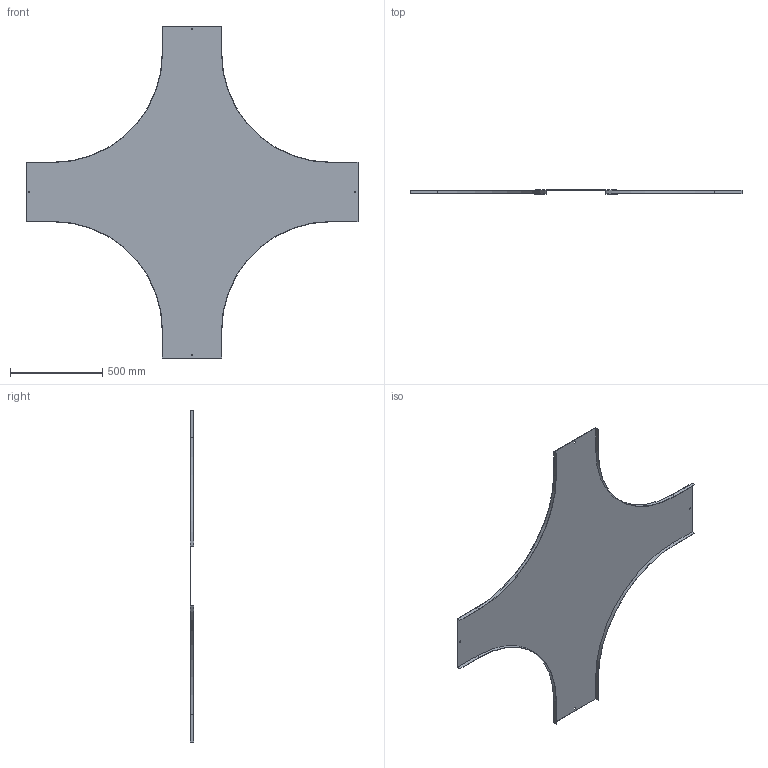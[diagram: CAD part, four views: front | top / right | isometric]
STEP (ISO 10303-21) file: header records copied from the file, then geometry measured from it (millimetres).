
FILE_DESCRIPTION (( 'STEP AP214' ), '1' );
FILE_NAME ('17N6P300.step', '2025-02-21T13:57:33', ( '' ), ( '' ), 'SwSTEP 2.0', 'SolidWorks 2023', '' );
FILE_SCHEMA (( 'AUTOMOTIVE_DESIGN' ));
Length unit declared in the file: millimetre
Products named in the file (1): 17N6P300
Bounding box: 1800 x 20 x 1800 mm (x, y, z)
Volume: 2169337.4 mm3; surface area: 2902142.4 mm2
Topology: 1 solids, 1 shells, 50 faces, 144 edges, 96 vertices
Faces by surface type: plane 42, cylinder 8
Entity records: 1663 total; most frequent: CARTESIAN_POINT 291, ORIENTED_EDGE 288, DIRECTION 262, EDGE_CURVE 144, VECTOR 128, LINE 128, VERTEX_POINT 96, AXIS2_PLACEMENT_3D 67
